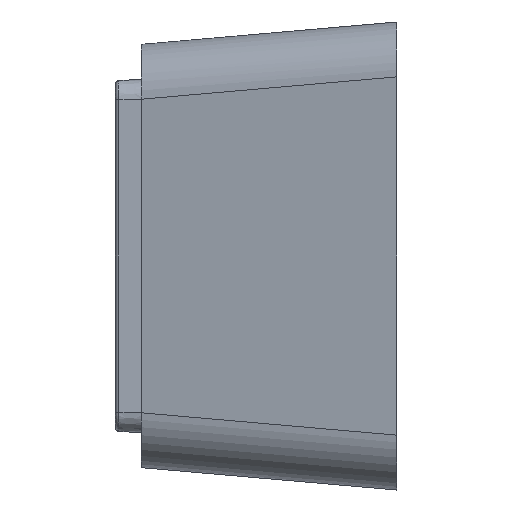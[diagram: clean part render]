
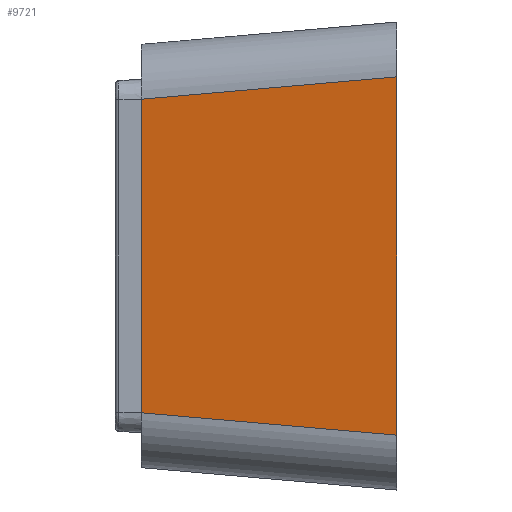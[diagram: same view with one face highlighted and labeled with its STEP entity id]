
A CAD part, left-side view. The second image highlights one B-rep face of the part: STEP entity #9721.
In plain terms, the highlighted planar face has unit normal (-0.985, 0.174, 0).
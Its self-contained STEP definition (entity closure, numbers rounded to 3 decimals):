
#157 = CARTESIAN_POINT ( 'NONE',  ( -17.25, 0., 9.684 ) ) ;
#489 = CARTESIAN_POINT ( 'NONE',  ( -14.817, 13.8, 8.477 ) ) ;
#826 = CARTESIAN_POINT ( 'NONE',  ( -17.25, 0., -9.684 ) ) ;
#871 = EDGE_CURVE ( 'NONE', #9504, #3824, #3246, .T. ) ;
#1340 = CARTESIAN_POINT ( 'NONE',  ( -14.817, 13.8, 12.65 ) ) ;
#1387 = EDGE_CURVE ( 'NONE', #9230, #10533, #5680, .T. ) ;
#1703 = EDGE_CURVE ( 'NONE', #9504, #10533, #7419, .T. ) ;
#2602 = AXIS2_PLACEMENT_3D ( 'NONE', #11828, #4480, #10899 ) ;
#3116 = EDGE_LOOP ( 'NONE', ( #13093, #10599, #10324, #9029 ) ) ;
#3246 = LINE ( 'NONE', #12456, #13155 ) ;
#3681 = DIRECTION ( 'NONE',  ( 0.173, 0.981, -0.086 ) ) ;
#3824 = VERTEX_POINT ( 'NONE', #826 ) ;
#3832 = CARTESIAN_POINT ( 'NONE',  ( -14.817, 13.8, -8.477 ) ) ;
#3972 = EDGE_CURVE ( 'NONE', #3824, #9230, #9251, .T. ) ;
#4031 = CARTESIAN_POINT ( 'NONE',  ( -17.25, 0., 9.534 ) ) ;
#4480 = DIRECTION ( 'NONE',  ( -0.985, 0.174, 0. ) ) ;
#5680 = LINE ( 'NONE', #10897, #6125 ) ;
#6125 = VECTOR ( 'NONE', #3681, 1000. ) ;
#6611 = VECTOR ( 'NONE', #12380, 1000. ) ;
#6691 = FACE_OUTER_BOUND ( 'NONE', #3116, .T. ) ;
#7419 = LINE ( 'NONE', #1340, #9653 ) ;
#7564 = PLANE ( 'NONE',  #2602 ) ;
#8450 = DIRECTION ( 'NONE',  ( -0.173, -0.981, -0.086 ) ) ;
#9029 = ORIENTED_EDGE ( 'NONE', *, *, #1703, .F. ) ;
#9230 = VERTEX_POINT ( 'NONE', #157 ) ;
#9251 = LINE ( 'NONE', #4031, #6611 ) ;
#9504 = VERTEX_POINT ( 'NONE', #3832 ) ;
#9653 = VECTOR ( 'NONE', #12291, 1000. ) ;
#9721 = ADVANCED_FACE ( 'NONE', ( #6691 ), #7564, .T. ) ;
#10324 = ORIENTED_EDGE ( 'NONE', *, *, #1387, .T. ) ;
#10533 = VERTEX_POINT ( 'NONE', #489 ) ;
#10599 = ORIENTED_EDGE ( 'NONE', *, *, #3972, .T. ) ;
#10897 = CARTESIAN_POINT ( 'NONE',  ( -17.294, -0.25, 9.706 ) ) ;
#10899 = DIRECTION ( 'NONE',  ( -0.174, -0.985, 0. ) ) ;
#11828 = CARTESIAN_POINT ( 'NONE',  ( -17.25, 0., 12.65 ) ) ;
#12291 = DIRECTION ( 'NONE',  ( 0., 0., 1. ) ) ;
#12380 = DIRECTION ( 'NONE',  ( 0., 0., 1. ) ) ;
#12456 = CARTESIAN_POINT ( 'NONE',  ( -16.918, 1.881, -9.52 ) ) ;
#13093 = ORIENTED_EDGE ( 'NONE', *, *, #871, .T. ) ;
#13155 = VECTOR ( 'NONE', #8450, 1000. ) ;
